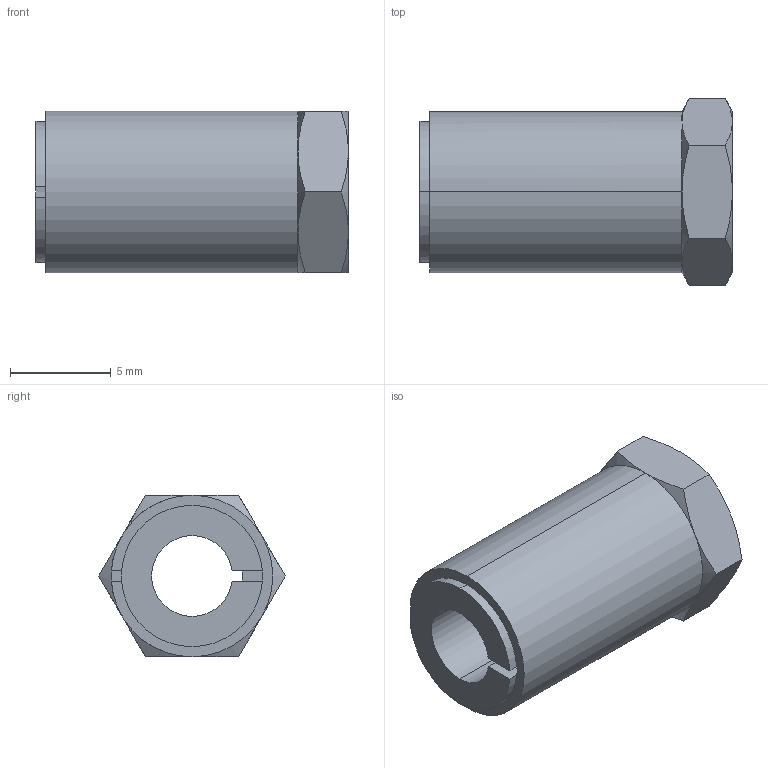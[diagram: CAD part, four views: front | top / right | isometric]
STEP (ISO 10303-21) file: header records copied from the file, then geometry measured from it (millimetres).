
FILE_DESCRIPTION (( 'STEP AP203' ), '1' );
FILE_NAME ('KBS 57 - 4 x 8.STEP', '2015-07-05T18:29:05', ( '' ), ( '' ), 'SwSTEP 2.0', 'SolidWorks 2010', '' );
FILE_SCHEMA (( 'CONFIG_CONTROL_DESIGN' ));
Length unit declared in the file: millimetre
Products named in the file (1): KBS 57 - 4 x 8
Bounding box: 15.5 x 9.24 x 8 mm (x, y, z)
Volume: 572.2 mm3; surface area: 728.5 mm2
Topology: 1 solids, 1 shells, 41 faces, 99 edges, 60 vertices
Faces by surface type: plane 16, cone 15, cylinder 10
Entity records: 1333 total; most frequent: CARTESIAN_POINT 317, ORIENTED_EDGE 198, DIRECTION 196, EDGE_CURVE 99, AXIS2_PLACEMENT_3D 81, VERTEX_POINT 60, EDGE_LOOP 43, ADVANCED_FACE 41
